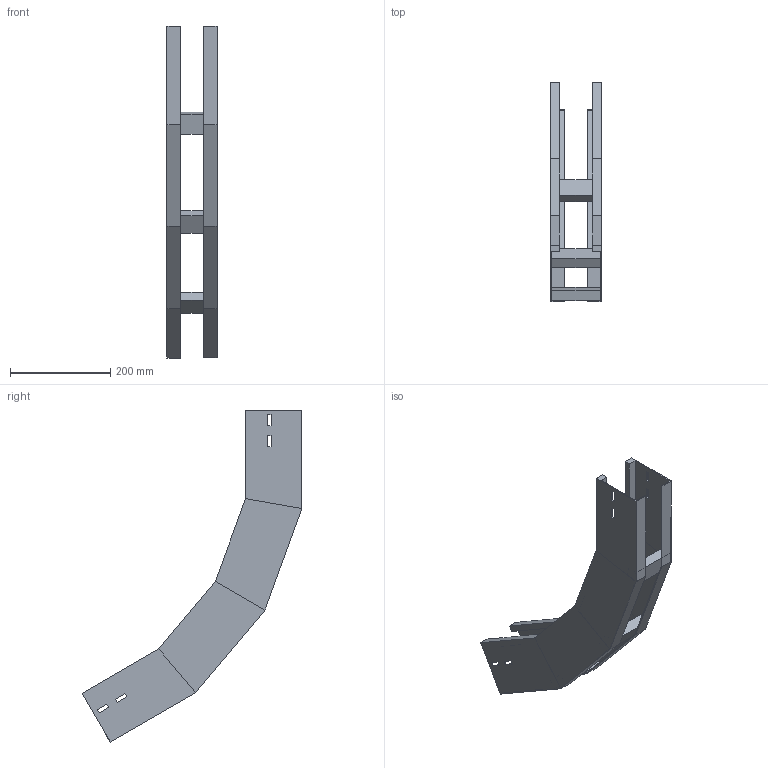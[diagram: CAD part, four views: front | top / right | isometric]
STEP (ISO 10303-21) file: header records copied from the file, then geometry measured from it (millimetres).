
FILE_DESCRIPTION (( 'STEP AP214' ), '1' );
FILE_NAME ('B2X40B5J100XX.step', '2025-03-20T10:15:55', ( '' ), ( '' ), 'SwSTEP 2.0', 'SolidWorks 2023', '' );
FILE_SCHEMA (( 'AUTOMOTIVE_DESIGN' ));
Length unit declared in the file: millimetre
Products named in the file (3): LONGH.SALITA_60°_H112.5_R500; B2X40B5J100XX; TRAVERSINO_100
Assembly tree (5 placements, depth 2):
  B2X40B5J100XX
    LONGH.SALITA_60°_H112.5_R500  x2
    TRAVERSINO_100  x3
Bounding box: 100 x 438.74 x 662.49 mm (x, y, z)
Volume: 930466.9 mm3; surface area: 518119.8 mm2
Topology: 5 solids, 5 shells, 118 faces, 276 edges, 168 vertices
Faces by surface type: plane 118
Entity records: 1672 total; most frequent: CARTESIAN_POINT 276, ORIENTED_EDGE 264, DIRECTION 260, VECTOR 132, EDGE_CURVE 132, LINE 132, VERTEX_POINT 80, AXIS2_PLACEMENT_3D 64
